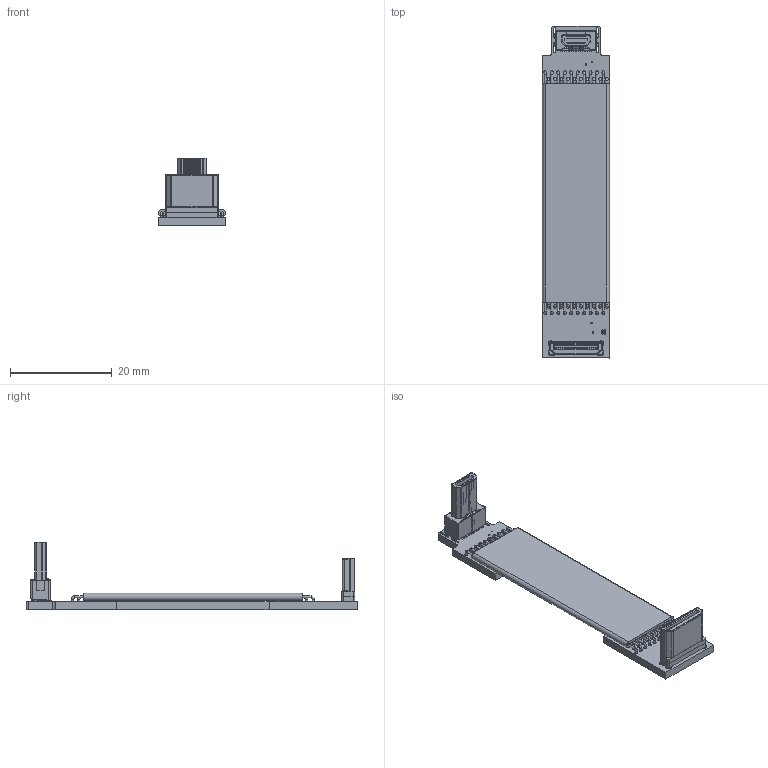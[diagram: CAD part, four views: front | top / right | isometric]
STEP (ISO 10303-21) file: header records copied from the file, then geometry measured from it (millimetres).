
FILE_DESCRIPTION(('Open CASCADE Model'),'2;1');
FILE_NAME('Open CASCADE Shape Model','2022-06-09T22:46:50',('Author'),( 'Open CASCADE'),'Open CASCADE STEP processor 6.8','Open CASCADE 6.8' ,'Unknown');
FILE_SCHEMA(('AUTOMOTIVE_DESIGN { 1 0 10303 214 1 1 1 1 }'));
Length unit declared in the file: millimetre
Products named in the file (71): PCB; Board; Open CASCADE STEP translator 6.8 7.1.1; _1; HDMI_MICRO_D(M)_9p俔殏(1); Open CASCADE STEP translator 6.8 7.3; miniHDMI-p_RGB10275833; HDMI_type_C1; Free-Models; cable20-A1A1
Assembly tree (71 placements, depth 3):
  PCB
    Board
      Open CASCADE STEP translator 6.8 7.1.1
    _1
      HDMI_MICRO_D(M)_9p俔殏(1)
      HDMI_MICRO_D(M)_9p俔殏(1)
      HDMI_MICRO_D(M)_9p俔殏(1)
      HDMI_MICRO_D(M)_9p俔殏(1)
      HDMI_MICRO_D(M)_9p俔殏(1)
      HDMI_MICRO_D(M)_9p俔殏(1)
      HDMI_MICRO_D(M)_9p俔殏(1)
      HDMI_MICRO_D(M)_9p俔殏(1)
      HDMI_MICRO_D(M)_9p俔殏(1)
      HDMI_MICRO_D(M)_9p俔殏(1)
      HDMI_MICRO_D(M)_9p俔殏(1)
      HDMI_MICRO_D(M)_9p俔殏(1)
      HDMI_MICRO_D(M)_9p俔殏(1)
      HDMI_MICRO_D(M)_9p俔殏(1)
      HDMI_MICRO_D(M)_9p俔殏(1)
      HDMI_MICRO_D(M)_9p俔殏(1)
      HDMI_MICRO_D(M)_9p俔殏(1)
      HDMI_MICRO_D(M)_9p俔殏(1)
      HDMI_MICRO_D(M)_9p俔殏(1)
      HDMI_MICRO_D(M)_9p俔殏(1)
      HDMI_MICRO_D(M)_9p俔殏(1)
      HDMI_MICRO_D(M)_9p俔殏(1)
    Open CASCADE STEP translator 6.8 7.3
      miniHDMI-p_RGB10275833  x2
      HDMI_type_C1
    Free-Models
      cable20-A1A1
      cable20-A1A1
      cable20-A1A1
      cable20-A1A1
      cable20-A1A1
      cable20-A1A1
      cable20-A1A1
      cable20-A1A1
      cable20-A1A1
      cable20-A1A1
      cable20-A1A1
      cable20-A1A1
      cable20-A1A1
      cable20-A1A1
      cable20-A1A1
      cable20-A1A1
      cable20-A1A1
      cable20-A1A1
      cable20-A1A1
      cable20-A1A1
      cable20-A1A1
      cable20-A1A1
      cable20-A1A1
      cable20-A1A1
      cable20-A1A1
      cable20-A1A1
      cable20-A1A1
      cable20-A1A1
      cable20-A1A1
      cable20-A1A1
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Bounding box: 13.2 x 65.31 x 13.25 mm (x, y, z)
Volume: 1709 mm3; surface area: 5198.9 mm2
Topology: 67 solids, 67 shells, 937 faces, 2313 edges, 1510 vertices
Faces by surface type: plane 602, cylinder 285, torus 46, extrusion 4
Full cylindrical faces by diameter (mm): 0.254 x3, 0.304 x6, 0.38 x10, 0.4 x109, 0.6 x40, 1.1 x2, 1.4 x2
Entity records: 36450 total; most frequent: CARTESIAN_POINT 5158, DIRECTION 4709, ORIENTED_EDGE 4578, EDGE_CURVE 2289, VECTOR 1571, AXIS2_PLACEMENT_3D 1569, LINE 1567, VERTEX_POINT 1494
